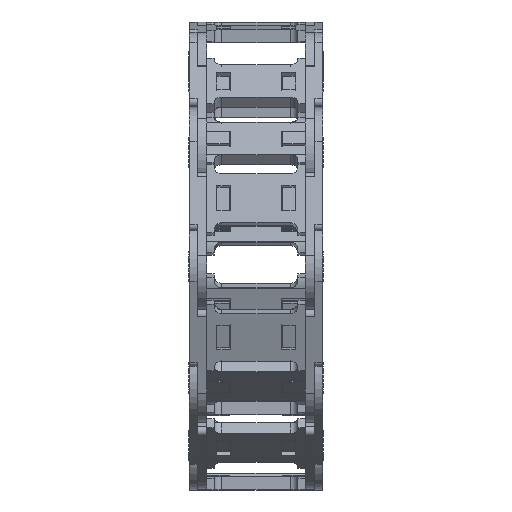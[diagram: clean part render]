
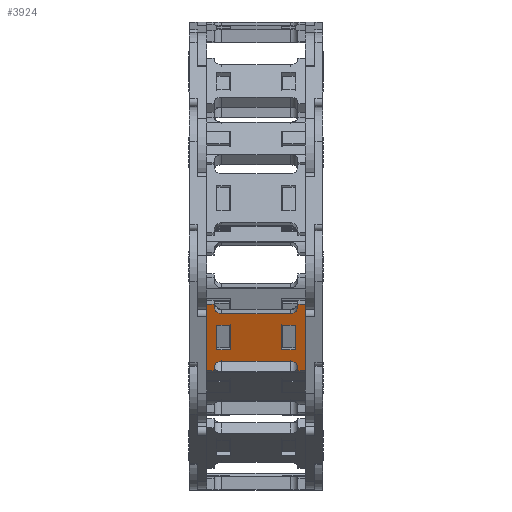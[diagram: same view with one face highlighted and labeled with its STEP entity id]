
A CAD part, left-side view. The second image highlights one B-rep face of the part: STEP entity #3924.
In plain terms, the highlighted planar face has unit normal (-0.94, 0, -0.342) as drawn and (0, -1, 0) by its records, which use the part's own axes.
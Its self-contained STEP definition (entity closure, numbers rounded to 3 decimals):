
#3023=DIRECTION('',(0.,0.,1.));
#3024=VECTOR('',#3023,10.3);
#3025=CARTESIAN_POINT('',(10.,0.,-5.15));
#3026=LINE('',#3025,#3024);
#3048=DIRECTION('',(0.,0.,1.));
#3049=VECTOR('',#3048,28.);
#3050=CARTESIAN_POINT('',(19.5,0.,-14.));
#3051=LINE('',#3050,#3049);
#3101=DIRECTION('',(-1.,0.,0.));
#3102=VECTOR('',#3101,5.5);
#3103=CARTESIAN_POINT('',(15.5,0.,-5.15));
#3104=LINE('',#3103,#3102);
#3125=DIRECTION('',(1.,0.,0.));
#3126=VECTOR('',#3125,5.5);
#3127=CARTESIAN_POINT('',(10.,0.,5.15));
#3128=LINE('',#3127,#3126);
#3133=DIRECTION('',(0.,0.,-1.));
#3134=VECTOR('',#3133,10.3);
#3135=CARTESIAN_POINT('',(-15.5,0.,5.15));
#3136=LINE('',#3135,#3134);
#3137=DIRECTION('',(0.,0.,1.));
#3138=VECTOR('',#3137,10.3);
#3139=CARTESIAN_POINT('',(15.5,0.,-5.15));
#3140=LINE('',#3139,#3138);
#3141=CARTESIAN_POINT('',(13.5,0.,13.));
#3142=DIRECTION('',(0.,-1.,0.));
#3143=DIRECTION('',(0.,0.,-1.));
#3144=AXIS2_PLACEMENT_3D('',#3141,#3142,#3143);
#3146=CARTESIAN_POINT('',(13.5,0.,-13.));
#3147=DIRECTION('',(0.,-1.,0.));
#3148=DIRECTION('',(1.,0.,0.));
#3149=AXIS2_PLACEMENT_3D('',#3146,#3147,#3148);
#3171=DIRECTION('',(1.,0.,0.));
#3172=VECTOR('',#3171,5.5);
#3173=CARTESIAN_POINT('',(-15.5,0.,5.15));
#3174=LINE('',#3173,#3172);
#3191=DIRECTION('',(0.,0.,-1.));
#3192=VECTOR('',#3191,10.3);
#3193=CARTESIAN_POINT('',(-10.,0.,5.15));
#3194=LINE('',#3193,#3192);
#3224=DIRECTION('',(0.,0.,-1.));
#3225=VECTOR('',#3224,28.);
#3226=CARTESIAN_POINT('',(-19.5,0.,14.));
#3227=LINE('',#3226,#3225);
#3277=DIRECTION('',(-1.,0.,0.));
#3278=VECTOR('',#3277,27.);
#3279=CARTESIAN_POINT('',(13.5,0.,10.));
#3280=LINE('',#3279,#3278);
#3281=CARTESIAN_POINT('',(-13.5,0.,13.));
#3282=DIRECTION('',(0.,1.,0.));
#3283=DIRECTION('',(0.,0.,-1.));
#3284=AXIS2_PLACEMENT_3D('',#3281,#3282,#3283);
#3311=DIRECTION('',(0.,0.,1.));
#3312=VECTOR('',#3311,1.);
#3313=CARTESIAN_POINT('',(-16.5,0.,13.));
#3314=LINE('',#3313,#3312);
#3324=DIRECTION('',(-1.,0.,0.));
#3325=VECTOR('',#3324,3.);
#3326=CARTESIAN_POINT('',(-16.5,0.,14.));
#3327=LINE('',#3326,#3325);
#3366=DIRECTION('',(0.,0.,-1.));
#3367=VECTOR('',#3366,1.);
#3368=CARTESIAN_POINT('',(16.5,0.,14.));
#3369=LINE('',#3368,#3367);
#3370=DIRECTION('',(-1.,0.,0.));
#3371=VECTOR('',#3370,3.);
#3372=CARTESIAN_POINT('',(19.5,0.,14.));
#3373=LINE('',#3372,#3371);
#3378=DIRECTION('',(1.,0.,0.));
#3379=VECTOR('',#3378,3.);
#3380=CARTESIAN_POINT('',(-19.5,0.,-14.));
#3381=LINE('',#3380,#3379);
#3407=DIRECTION('',(0.,0.,1.));
#3408=VECTOR('',#3407,1.);
#3409=CARTESIAN_POINT('',(-16.5,0.,-14.));
#3410=LINE('',#3409,#3408);
#3432=CARTESIAN_POINT('',(-13.5,0.,-13.));
#3433=DIRECTION('',(0.,1.,0.));
#3434=DIRECTION('',(-1.,0.,0.));
#3435=AXIS2_PLACEMENT_3D('',#3432,#3433,#3434);
#3441=DIRECTION('',(1.,0.,0.));
#3442=VECTOR('',#3441,27.);
#3443=CARTESIAN_POINT('',(-13.5,0.,-10.));
#3444=LINE('',#3443,#3442);
#3483=DIRECTION('',(0.,0.,-1.));
#3484=VECTOR('',#3483,1.);
#3485=CARTESIAN_POINT('',(16.5,0.,-13.));
#3486=LINE('',#3485,#3484);
#3491=DIRECTION('',(1.,0.,0.));
#3492=VECTOR('',#3491,3.);
#3493=CARTESIAN_POINT('',(16.5,0.,-14.));
#3494=LINE('',#3493,#3492);
#3511=DIRECTION('',(-1.,0.,0.));
#3512=VECTOR('',#3511,5.5);
#3513=CARTESIAN_POINT('',(-10.,0.,-5.15));
#3514=LINE('',#3513,#3512);
#3580=CARTESIAN_POINT('',(19.5,0.,-14.));
#3581=VERTEX_POINT('',#3580);
#3582=CARTESIAN_POINT('',(19.5,0.,14.));
#3583=VERTEX_POINT('',#3582);
#3587=CARTESIAN_POINT('',(10.,0.,-5.15));
#3589=VERTEX_POINT('',#3587);
#3590=CARTESIAN_POINT('',(10.,0.,5.15));
#3591=VERTEX_POINT('',#3590);
#3598=CARTESIAN_POINT('',(15.5,0.,-5.15));
#3599=VERTEX_POINT('',#3598);
#3602=CARTESIAN_POINT('',(15.5,0.,5.15));
#3603=VERTEX_POINT('',#3602);
#3604=CARTESIAN_POINT('',(13.5,0.,10.));
#3605=CARTESIAN_POINT('',(16.5,0.,13.));
#3606=VERTEX_POINT('',#3604);
#3607=VERTEX_POINT('',#3605);
#3608=CARTESIAN_POINT('',(16.5,0.,14.));
#3609=VERTEX_POINT('',#3608);
#3610=CARTESIAN_POINT('',(16.5,0.,-14.));
#3611=VERTEX_POINT('',#3610);
#3612=CARTESIAN_POINT('',(16.5,0.,-13.));
#3613=VERTEX_POINT('',#3612);
#3614=CARTESIAN_POINT('',(13.5,0.,-10.));
#3615=VERTEX_POINT('',#3614);
#3637=CARTESIAN_POINT('',(-19.5,0.,-14.));
#3638=CARTESIAN_POINT('',(-16.5,0.,-14.));
#3639=VERTEX_POINT('',#3637);
#3640=VERTEX_POINT('',#3638);
#3641=CARTESIAN_POINT('',(-19.5,0.,14.));
#3642=VERTEX_POINT('',#3641);
#3643=CARTESIAN_POINT('',(-16.5,0.,14.));
#3644=VERTEX_POINT('',#3643);
#3645=CARTESIAN_POINT('',(-15.5,0.,5.15));
#3646=CARTESIAN_POINT('',(-15.5,0.,-5.15));
#3647=VERTEX_POINT('',#3645);
#3648=VERTEX_POINT('',#3646);
#3649=CARTESIAN_POINT('',(-10.,0.,-5.15));
#3650=VERTEX_POINT('',#3649);
#3651=CARTESIAN_POINT('',(-10.,0.,5.15));
#3652=VERTEX_POINT('',#3651);
#3665=CARTESIAN_POINT('',(-13.5,0.,-10.));
#3667=VERTEX_POINT('',#3665);
#3669=CARTESIAN_POINT('',(-16.5,0.,-13.));
#3671=VERTEX_POINT('',#3669);
#3674=CARTESIAN_POINT('',(-13.5,0.,10.));
#3676=VERTEX_POINT('',#3674);
#3678=CARTESIAN_POINT('',(-16.5,0.,13.));
#3680=VERTEX_POINT('',#3678);
#3870=CARTESIAN_POINT('',(0.,0.,0.));
#3871=DIRECTION('',(0.,1.,0.));
#3872=DIRECTION('',(1.,0.,0.));
#3873=AXIS2_PLACEMENT_3D('',#3870,#3871,#3872);
#3874=PLANE('',#3873);
#3876=ORIENTED_EDGE('',*,*,#3875,.F.);
#3878=ORIENTED_EDGE('',*,*,#3877,.F.);
#3880=ORIENTED_EDGE('',*,*,#3879,.F.);
#3882=ORIENTED_EDGE('',*,*,#3881,.T.);
#3884=ORIENTED_EDGE('',*,*,#3883,.F.);
#3886=ORIENTED_EDGE('',*,*,#3885,.F.);
#3887=ORIENTED_EDGE('',*,*,#3762,.F.);
#3889=ORIENTED_EDGE('',*,*,#3888,.F.);
#3891=ORIENTED_EDGE('',*,*,#3890,.F.);
#3893=ORIENTED_EDGE('',*,*,#3892,.T.);
#3895=ORIENTED_EDGE('',*,*,#3894,.F.);
#3897=ORIENTED_EDGE('',*,*,#3896,.F.);
#3899=ORIENTED_EDGE('',*,*,#3898,.F.);
#3901=ORIENTED_EDGE('',*,*,#3900,.F.);
#3903=ORIENTED_EDGE('',*,*,#3902,.F.);
#3905=ORIENTED_EDGE('',*,*,#3904,.F.);
#3906=EDGE_LOOP('',(#3876,#3878,#3880,#3882,#3884,#3886,#3887,#3889,#3891,#3893,
#3895,#3897,#3899,#3901,#3903,#3905));
#3907=FACE_OUTER_BOUND('',#3906,.F.);
#3908=ORIENTED_EDGE('',*,*,#3848,.T.);
#3909=ORIENTED_EDGE('',*,*,#3860,.F.);
#3910=ORIENTED_EDGE('',*,*,#3727,.F.);
#3911=ORIENTED_EDGE('',*,*,#3818,.F.);
#3912=EDGE_LOOP('',(#3908,#3909,#3910,#3911));
#3913=FACE_BOUND('',#3912,.F.);
#3915=ORIENTED_EDGE('',*,*,#3914,.T.);
#3917=ORIENTED_EDGE('',*,*,#3916,.F.);
#3919=ORIENTED_EDGE('',*,*,#3918,.F.);
#3921=ORIENTED_EDGE('',*,*,#3920,.F.);
#3922=EDGE_LOOP('',(#3915,#3917,#3919,#3921));
#3923=FACE_BOUND('',#3922,.F.);
#3924=ADVANCED_FACE('',(#3907,#3913,#3923),#3874,.F.);
#3145=CIRCLE('',#3144,3.);
#3150=CIRCLE('',#3149,3.);
#3285=CIRCLE('',#3284,3.);
#3436=CIRCLE('',#3435,3.);
#3727=EDGE_CURVE('',#3589,#3591,#3026,.T.);
#3762=EDGE_CURVE('',#3581,#3583,#3051,.T.);
#3818=EDGE_CURVE('',#3599,#3589,#3104,.T.);
#3848=EDGE_CURVE('',#3599,#3603,#3140,.T.);
#3860=EDGE_CURVE('',#3591,#3603,#3128,.T.);
#3875=EDGE_CURVE('',#3680,#3644,#3314,.T.);
#3877=EDGE_CURVE('',#3676,#3680,#3285,.T.);
#3879=EDGE_CURVE('',#3606,#3676,#3280,.T.);
#3881=EDGE_CURVE('',#3606,#3607,#3145,.T.);
#3883=EDGE_CURVE('',#3609,#3607,#3369,.T.);
#3885=EDGE_CURVE('',#3583,#3609,#3373,.T.);
#3888=EDGE_CURVE('',#3611,#3581,#3494,.T.);
#3890=EDGE_CURVE('',#3613,#3611,#3486,.T.);
#3892=EDGE_CURVE('',#3613,#3615,#3150,.T.);
#3894=EDGE_CURVE('',#3667,#3615,#3444,.T.);
#3896=EDGE_CURVE('',#3671,#3667,#3436,.T.);
#3898=EDGE_CURVE('',#3640,#3671,#3410,.T.);
#3900=EDGE_CURVE('',#3639,#3640,#3381,.T.);
#3902=EDGE_CURVE('',#3642,#3639,#3227,.T.);
#3904=EDGE_CURVE('',#3644,#3642,#3327,.T.);
#3914=EDGE_CURVE('',#3647,#3648,#3136,.T.);
#3916=EDGE_CURVE('',#3650,#3648,#3514,.T.);
#3918=EDGE_CURVE('',#3652,#3650,#3194,.T.);
#3920=EDGE_CURVE('',#3647,#3652,#3174,.T.);
